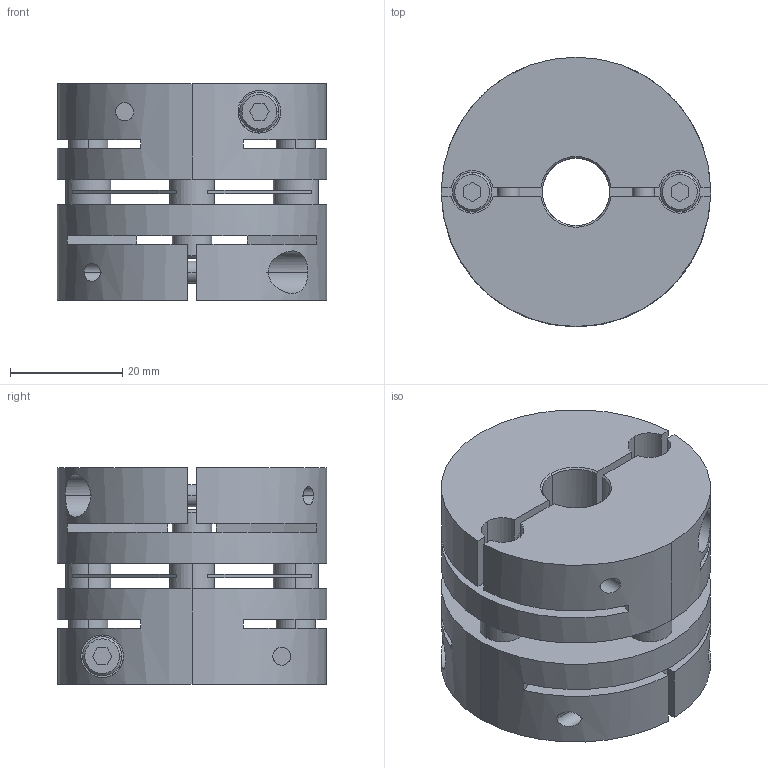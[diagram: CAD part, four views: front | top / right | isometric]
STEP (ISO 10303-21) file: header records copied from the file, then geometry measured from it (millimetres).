
FILE_DESCRIPTION((''),'2;1');
FILE_NAME('LAS-48C-12×22.stp','2015-10-14T15:44:35',(''),(''),'AutoCAD STEP 2000i','AutoCAD 2000i',', , ');
FILE_SCHEMA(('CONFIG_CONTROL_DESIGN'));
Length unit declared in the file: millimetre
Products named in the file (6): LAS-48C-12×19; 忣兜1; LA-4802-D19; LA-4802-D12-1; LA-4802-D12; LAS48-ITA
Assembly tree (5 placements, depth 2):
  LAS-48C-12×19
    忣兜1
    LA-4802-D19
    LA-4802-D12-1
    LA-4802-D12
    LAS48-ITA
Bounding box: 48 x 48 x 38.6 mm (x, y, z)
Volume: 47865.4 mm3; surface area: 22029 mm2
Topology: 1 solids, 1 shells, 224 faces, 600 edges, 392 vertices
Faces by surface type: plane 112, cylinder 84, cone 28
Entity records: 7841 total; most frequent: CARTESIAN_POINT 1878, DIRECTION 1256, ORIENTED_EDGE 1200, EDGE_CURVE 600, AXIS2_PLACEMENT_3D 458, VERTEX_POINT 392, VECTOR 340, LINE 340
